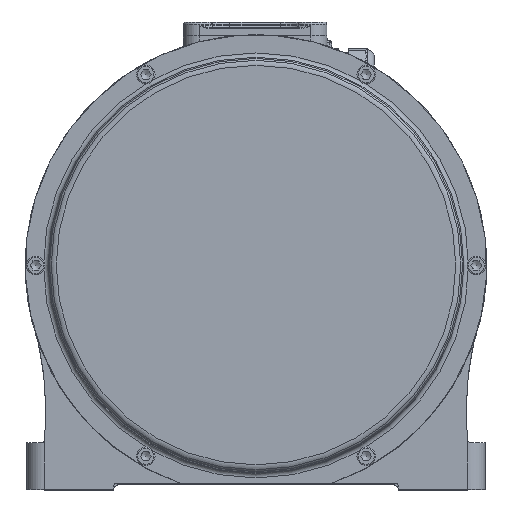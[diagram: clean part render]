
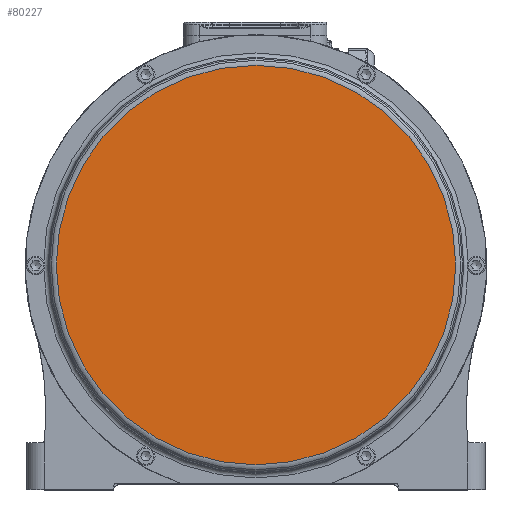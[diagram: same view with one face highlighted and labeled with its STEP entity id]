
A CAD part, top view. The second image highlights one B-rep face of the part: STEP entity #80227.
In plain terms, the highlighted planar face has unit normal (0, 0, 1).
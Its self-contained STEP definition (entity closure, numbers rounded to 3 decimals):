
#23894=FACE_OUTER_BOUND('',#28745,.T.);
#28745=EDGE_LOOP('',(#66957));
#30956=CIRCLE('',#84332,172.25);
#37793=VERTEX_POINT('',#134530);
#47814=EDGE_CURVE('',#37793,#37793,#30956,.T.);
#66957=ORIENTED_EDGE('',*,*,#47814,.F.);
#76985=PLANE('',#84348);
#80227=ADVANCED_FACE('',(#23894),#76985,.T.);
#84332=AXIS2_PLACEMENT_3D('',#134532,#97471,#97472);
#84348=AXIS2_PLACEMENT_3D('',#134560,#97505,#97506);
#97471=DIRECTION('center_axis',(0.,0.,
-1.));
#97472=DIRECTION('ref_axis',(1.,0.,0.));
#97505=DIRECTION('center_axis',(0.,0.,
1.));
#97506=DIRECTION('ref_axis',(0.,-1.,0.));
#134530=CARTESIAN_POINT('',(-5.217,-170.389,360.5));
#134532=CARTESIAN_POINT('Origin',(-5.217,1.861,360.5));
#134560=CARTESIAN_POINT('Origin',(-5.217,174.111,360.5));
